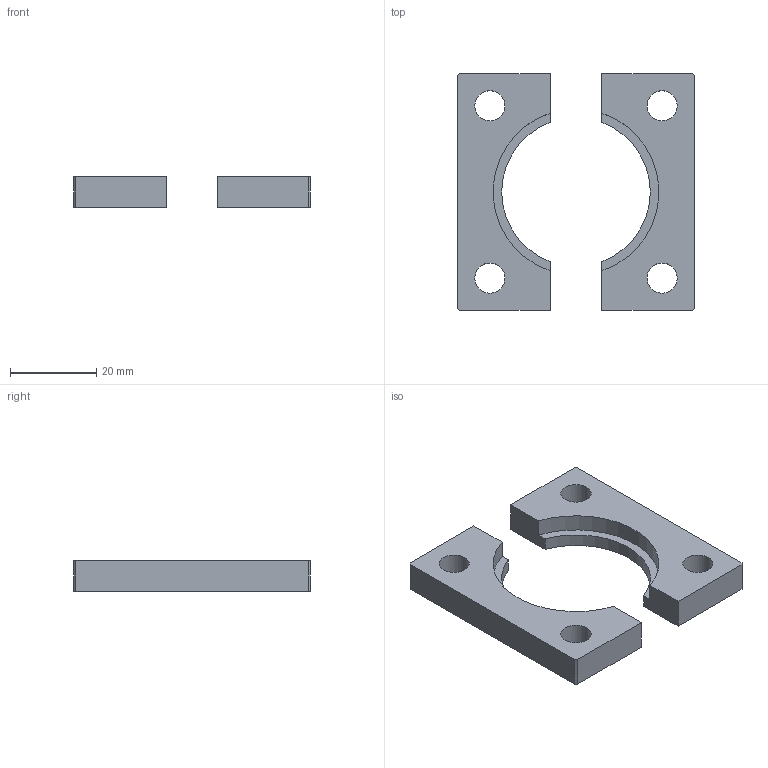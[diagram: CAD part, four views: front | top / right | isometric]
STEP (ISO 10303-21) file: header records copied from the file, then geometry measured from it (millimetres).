
FILE_DESCRIPTION(/* description */ (''),/* implementation_level */ '2;1');
FILE_NAME(/* name */ 'C:\Users\Jefferson\Desktop\Biblioteca Pro Nitro 2024\Flanges\PNB-55-XXX\PNB-55-038.stp',/* time_stamp */ '2024-01-26T11:35:57-03:00',/* author */ ('Jefferson'),/* organization */ (''),/* preprocessor_version */ 'ST-DEVELOPER v18.1',/* originating_system */ 'Autodesk Inventor 2021',/* authorisation */ '');
FILE_SCHEMA (('AUTOMOTIVE_DESIGN { 1 0 10303 214 3 1 1 }'));
Length unit declared in the file: millimetre
Products named in the file (1): PNB-55-038
Bounding box: 55 x 55 x 7 mm (x, y, z)
Volume: 11044.7 mm3; surface area: 6275.7 mm2
Topology: 2 solids, 2 shells, 202 faces, 546 edges, 364 vertices
Faces by surface type: bspline 98, plane 96, cylinder 8
Full cylindrical faces by diameter (mm): 7 x4
Entity records: 6870 total; most frequent: CARTESIAN_POINT 2387, ORIENTED_EDGE 1092, DIRECTION 576, EDGE_CURVE 546, VERTEX_POINT 364, LINE 334, VECTOR 334, EDGE_LOOP 226
